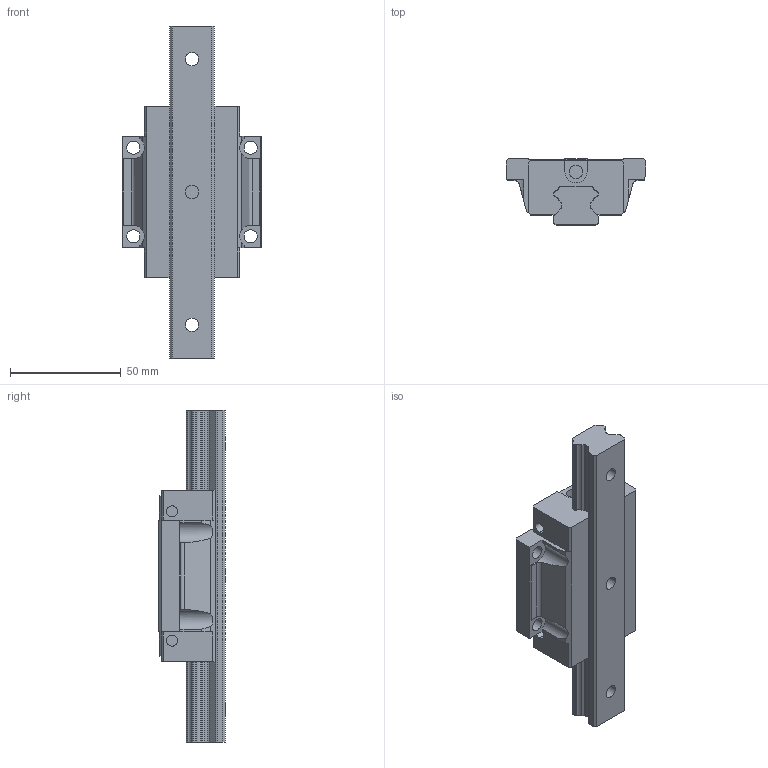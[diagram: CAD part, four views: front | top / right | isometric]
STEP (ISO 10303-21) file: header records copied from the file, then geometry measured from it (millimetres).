
FILE_DESCRIPTION((''),'2;1');
FILE_NAME('HGW20CC_ASM','2008-07-11T',('immo'),(''),'PRO/ENGINEER BY PARAMETRIC TECHNOLOGY CORPORATION, 2004360','PRO/ENGINEER BY PARAMETRIC TECHNOLOGY CORPORATION, 2004360','');
FILE_SCHEMA(('CONFIG_CONTROL_DESIGN'));
Length unit declared in the file: millimetre
Products named in the file (4): HGW20_3; HGR20_3; HGW20_ASM_4_ASM; HGW20CC_ASM
Assembly tree (3 placements, depth 3):
  HGW20CC_ASM
    HGW20_ASM_4_ASM
      HGW20_3
      HGR20_3
Bounding box: 63 x 30 x 150 mm (x, y, z)
Volume: 118871.3 mm3; surface area: 31355.2 mm2
Topology: 2 solids, 2 shells, 225 faces, 692 edges, 484 vertices
Faces by surface type: plane 129, cylinder 96
Entity records: 8035 total; most frequent: CARTESIAN_POINT 1477, ORIENTED_EDGE 1384, DIRECTION 1342, EDGE_CURVE 692, VERTEX_POINT 484, VECTOR 474, LINE 474, AXIS2_PLACEMENT_3D 434
